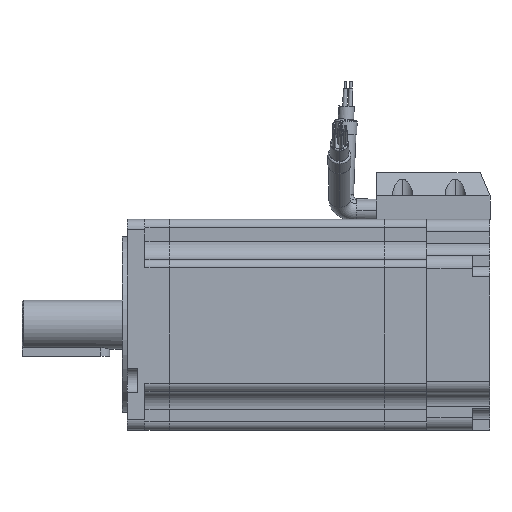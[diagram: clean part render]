
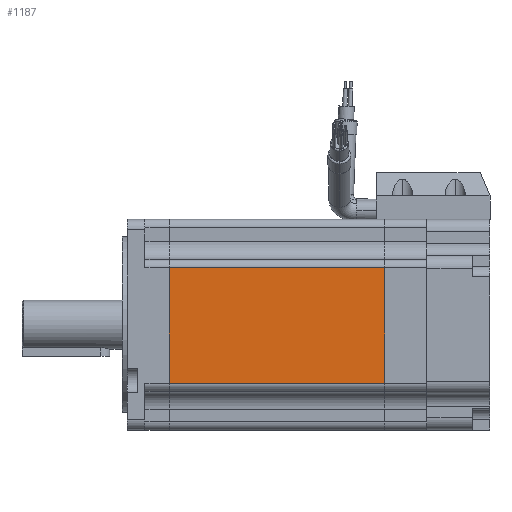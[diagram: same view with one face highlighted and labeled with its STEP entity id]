
A CAD part, left-side view. The second image highlights one B-rep face of the part: STEP entity #1187.
In plain terms, the highlighted planar face has unit normal (-1, 0, 0).
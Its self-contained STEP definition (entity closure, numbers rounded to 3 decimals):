
#627 = VERTEX_POINT ( 'NONE', #3743 ) ;
#1177 = EDGE_CURVE ( 'NONE', #6066, #10809, #1465, .T. ) ;
#1187 = ADVANCED_FACE ( 'NONE', ( #4387 ), #12581, .F. ) ;
#1310 = VECTOR ( 'NONE', #7269, 1000. ) ;
#1465 = LINE ( 'NONE', #4460, #5385 ) ;
#2043 = CARTESIAN_POINT ( 'NONE',  ( -30., -80.3, 16.3 ) ) ;
#2055 = VERTEX_POINT ( 'NONE', #7079 ) ;
#2402 = ORIENTED_EDGE ( 'NONE', *, *, #1177, .F. ) ;
#2664 = ORIENTED_EDGE ( 'NONE', *, *, #3428, .F. ) ;
#2995 = DIRECTION ( 'NONE',  ( 0., 1., 0. ) ) ;
#3428 = EDGE_CURVE ( 'NONE', #2055, #627, #7398, .T. ) ;
#3743 = CARTESIAN_POINT ( 'NONE',  ( -30., -7.001, 16.3 ) ) ;
#4048 = CARTESIAN_POINT ( 'NONE',  ( -30., -80.3, -16.7 ) ) ;
#4118 = AXIS2_PLACEMENT_3D ( 'NONE', #12929, #13136, #4916 ) ;
#4266 = EDGE_CURVE ( 'NONE', #10809, #2055, #9033, .T. ) ;
#4387 = FACE_OUTER_BOUND ( 'NONE', #6633, .T. ) ;
#4460 = CARTESIAN_POINT ( 'NONE',  ( -30., -68.29, 27. ) ) ;
#4523 = ORIENTED_EDGE ( 'NONE', *, *, #13100, .T. ) ;
#4545 = VECTOR ( 'NONE', #2995, 1000. ) ;
#4729 = CARTESIAN_POINT ( 'NONE',  ( -30., -68.29, -16.7 ) ) ;
#4916 = DIRECTION ( 'NONE',  ( 0., 0., -1. ) ) ;
#5385 = VECTOR ( 'NONE', #7658, 1000. ) ;
#5947 = ORIENTED_EDGE ( 'NONE', *, *, #4266, .F. ) ;
#6066 = VERTEX_POINT ( 'NONE', #7094 ) ;
#6601 = VECTOR ( 'NONE', #11258, 1000. ) ;
#6633 = EDGE_LOOP ( 'NONE', ( #2402, #4523, #2664, #5947 ) ) ;
#7015 = LINE ( 'NONE', #2043, #6601 ) ;
#7079 = CARTESIAN_POINT ( 'NONE',  ( -30., -7.001, -16.7 ) ) ;
#7094 = CARTESIAN_POINT ( 'NONE',  ( -30., -68.29, 16.3 ) ) ;
#7269 = DIRECTION ( 'NONE',  ( 0., 0., 1. ) ) ;
#7398 = LINE ( 'NONE', #12916, #1310 ) ;
#7658 = DIRECTION ( 'NONE',  ( 0., 0., -1. ) ) ;
#9033 = LINE ( 'NONE', #4048, #4545 ) ;
#10809 = VERTEX_POINT ( 'NONE', #4729 ) ;
#11258 = DIRECTION ( 'NONE',  ( 0., 1., 0. ) ) ;
#12581 = PLANE ( 'NONE',  #4118 ) ;
#12916 = CARTESIAN_POINT ( 'NONE',  ( -30., -7.001, 27. ) ) ;
#12929 = CARTESIAN_POINT ( 'NONE',  ( -30., 5., 27. ) ) ;
#13100 = EDGE_CURVE ( 'NONE', #6066, #627, #7015, .T. ) ;
#13136 = DIRECTION ( 'NONE',  ( 1., 0., 0. ) ) ;
